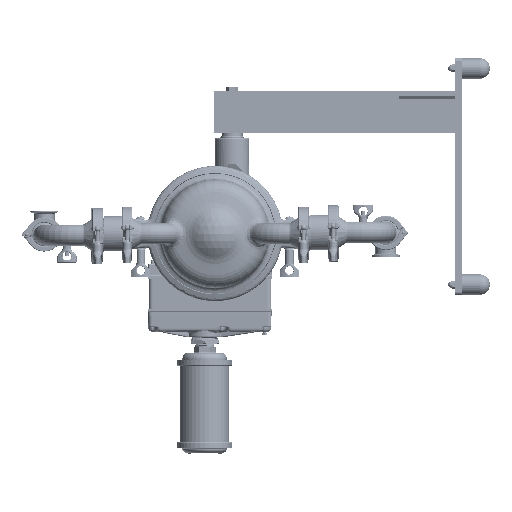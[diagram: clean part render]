
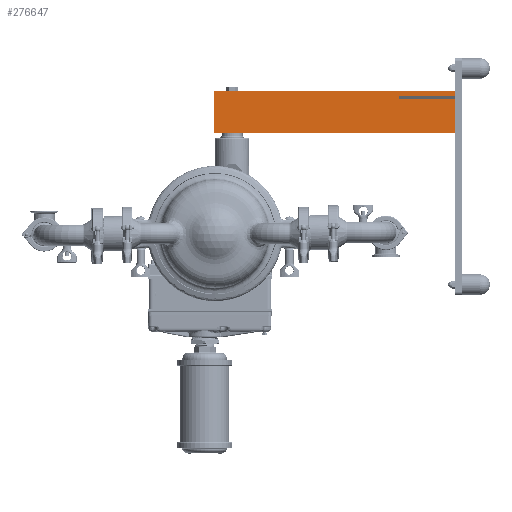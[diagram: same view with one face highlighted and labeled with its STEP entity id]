
A CAD part, left-side view. The second image highlights one B-rep face of the part: STEP entity #276647.
In plain terms, the highlighted planar face has unit normal (-1, 0, 0).
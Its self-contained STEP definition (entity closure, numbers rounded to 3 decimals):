
#3731 = CARTESIAN_POINT ( 'NONE',  ( -1., 0.093, 10.236 ) ) ;
#19890 = VERTEX_POINT ( 'NONE', #31587 ) ;
#30854 = LINE ( 'NONE', #193336, #167888 ) ;
#31587 = CARTESIAN_POINT ( 'NONE',  ( -1., -17.22, 7.236 ) ) ;
#37376 = ORIENTED_EDGE ( 'NONE', *, *, #192546, .F. ) ;
#71442 = CARTESIAN_POINT ( 'NONE',  ( -1., -13.22, 9.876 ) ) ;
#73360 = VERTEX_POINT ( 'NONE', #71442 ) ;
#76485 = ORIENTED_EDGE ( 'NONE', *, *, #439387, .F. ) ;
#76582 = VERTEX_POINT ( 'NONE', #416383 ) ;
#77915 = PLANE ( 'NONE',  #415791 ) ;
#85724 = VERTEX_POINT ( 'NONE', #223916 ) ;
#96974 = ORIENTED_EDGE ( 'NONE', *, *, #124500, .F. ) ;
#104107 = EDGE_LOOP ( 'NONE', ( #37376, #76485, #472868, #96974, #459488, #547571, #511473, #451898 ) ) ;
#123372 = VERTEX_POINT ( 'NONE', #351028 ) ;
#124500 = EDGE_CURVE ( 'NONE', #73360, #304405, #326829, .T. ) ;
#133765 = VECTOR ( 'NONE', #194479, 39.37 ) ;
#145362 = LINE ( 'NONE', #401591, #271620 ) ;
#146874 = VERTEX_POINT ( 'NONE', #379283 ) ;
#163351 = DIRECTION ( 'NONE',  ( 0., 0., 1. ) ) ;
#167888 = VECTOR ( 'NONE', #324239, 39.37 ) ;
#188104 = DIRECTION ( 'NONE',  ( 0., 1., 0. ) ) ;
#192546 = EDGE_CURVE ( 'NONE', #19890, #123372, #385794, .T. ) ;
#193196 = EDGE_CURVE ( 'NONE', #123372, #146874, #30854, .T. ) ;
#193336 = CARTESIAN_POINT ( 'NONE',  ( -1., 0.093, 7.236 ) ) ;
#194479 = DIRECTION ( 'NONE',  ( 0., 1., 0. ) ) ;
#220120 = LINE ( 'NONE', #3731, #363367 ) ;
#223916 = CARTESIAN_POINT ( 'NONE',  ( -1., -17.22, 9.626 ) ) ;
#232487 = EDGE_CURVE ( 'NONE', #373916, #76582, #261804, .T. ) ;
#239793 = VECTOR ( 'NONE', #254859, 39.37 ) ;
#254859 = DIRECTION ( 'NONE',  ( 0., 1., 0. ) ) ;
#261804 = LINE ( 'NONE', #557995, #385232 ) ;
#271620 = VECTOR ( 'NONE', #188104, 39.37 ) ;
#276647 = ADVANCED_FACE ( 'NONE', ( #291415 ), #77915, .T. ) ;
#291415 = FACE_OUTER_BOUND ( 'NONE', #104107, .T. ) ;
#297601 = CARTESIAN_POINT ( 'NONE',  ( -1., -17.22, 10.236 ) ) ;
#298903 = DIRECTION ( 'NONE',  ( 0., 0., -1. ) ) ;
#304405 = VERTEX_POINT ( 'NONE', #536096 ) ;
#324239 = DIRECTION ( 'NONE',  ( 0., 0., 1. ) ) ;
#325721 = CARTESIAN_POINT ( 'NONE',  ( -1., -17.22, 9.626 ) ) ;
#326829 = LINE ( 'NONE', #540431, #507367 ) ;
#334130 = DIRECTION ( 'NONE',  ( 0., 0., -1. ) ) ;
#351028 = CARTESIAN_POINT ( 'NONE',  ( -1., 0.093, 7.236 ) ) ;
#363367 = VECTOR ( 'NONE', #399323, 39.37 ) ;
#372352 = DIRECTION ( 'NONE',  ( 0., 0., -1. ) ) ;
#373916 = VERTEX_POINT ( 'NONE', #297601 ) ;
#376828 = DIRECTION ( 'NONE',  ( -1., 0., 0. ) ) ;
#377631 = EDGE_CURVE ( 'NONE', #146874, #373916, #220120, .T. ) ;
#379283 = CARTESIAN_POINT ( 'NONE',  ( -1., 0.093, 10.236 ) ) ;
#385232 = VECTOR ( 'NONE', #298903, 39.37 ) ;
#385794 = LINE ( 'NONE', #505529, #239793 ) ;
#399323 = DIRECTION ( 'NONE',  ( 0., -1., 0. ) ) ;
#401591 = CARTESIAN_POINT ( 'NONE',  ( -1., -17.22, 9.876 ) ) ;
#410538 = VECTOR ( 'NONE', #334130, 39.37 ) ;
#415791 = AXIS2_PLACEMENT_3D ( 'NONE', #507810, #376828, #163351 ) ;
#416383 = CARTESIAN_POINT ( 'NONE',  ( -1., -17.22, 9.876 ) ) ;
#433902 = EDGE_CURVE ( 'NONE', #76582, #73360, #145362, .T. ) ;
#439387 = EDGE_CURVE ( 'NONE', #85724, #19890, #547660, .T. ) ;
#451898 = ORIENTED_EDGE ( 'NONE', *, *, #193196, .F. ) ;
#459488 = ORIENTED_EDGE ( 'NONE', *, *, #433902, .F. ) ;
#472868 = ORIENTED_EDGE ( 'NONE', *, *, #513741, .T. ) ;
#499010 = CARTESIAN_POINT ( 'NONE',  ( -1., -17.22, 9.626 ) ) ;
#504618 = LINE ( 'NONE', #499010, #133765 ) ;
#505529 = CARTESIAN_POINT ( 'NONE',  ( -1., -17.22, 7.236 ) ) ;
#507367 = VECTOR ( 'NONE', #372352, 39.37 ) ;
#507810 = CARTESIAN_POINT ( 'NONE',  ( -1., -0.157, 10.236 ) ) ;
#511473 = ORIENTED_EDGE ( 'NONE', *, *, #377631, .F. ) ;
#513741 = EDGE_CURVE ( 'NONE', #85724, #304405, #504618, .T. ) ;
#536096 = CARTESIAN_POINT ( 'NONE',  ( -1., -13.22, 9.626 ) ) ;
#540431 = CARTESIAN_POINT ( 'NONE',  ( -1., -13.22, 9.876 ) ) ;
#547571 = ORIENTED_EDGE ( 'NONE', *, *, #232487, .F. ) ;
#547660 = LINE ( 'NONE', #325721, #410538 ) ;
#557995 = CARTESIAN_POINT ( 'NONE',  ( -1., -17.22, 10.236 ) ) ;
